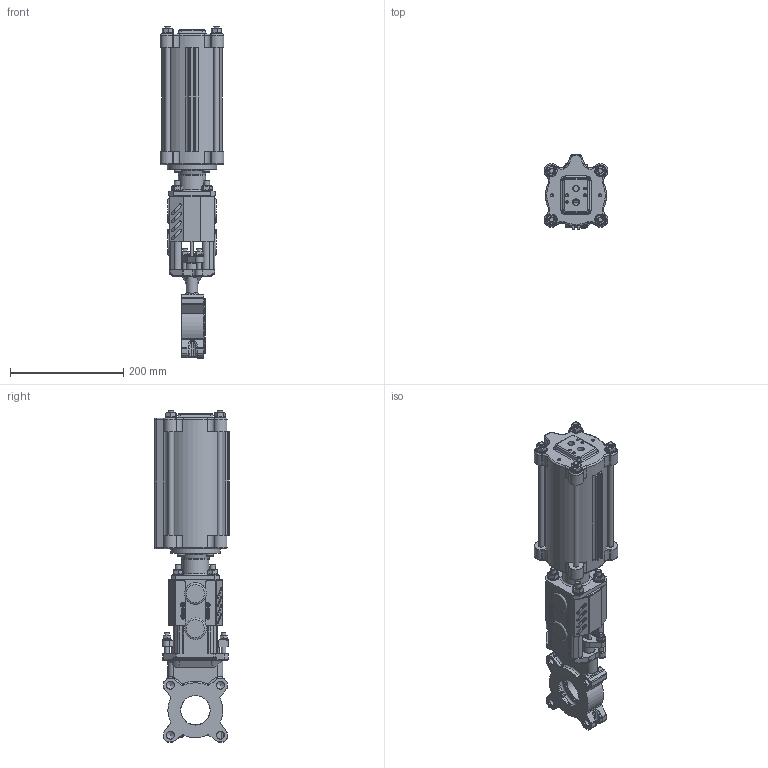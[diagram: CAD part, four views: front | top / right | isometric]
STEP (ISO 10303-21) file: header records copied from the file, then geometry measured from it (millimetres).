
FILE_DESCRIPTION(/* description */ (''),/* implementation_level */ '2;1');
FILE_NAME(/* name */ 'F:\Emir\3D-block special\MV VALVE\PNEUMATIC ACTUATOR\MV-DN50-PN10-FRSC100-115.stp',/* time_stamp */ '2018-03-20T09:37:24+01:00',/* author */ ('emimus'),/* organization */ (''),/* preprocessor_version */ 'ST-DEVELOPER v17',/* originating_system */ 'Autodesk Inventor 2018',/* authorisation */ '');
FILE_SCHEMA (('CONFIG_CONTROL_DESIGN'));
Products named in the file (1): MV-DN50-PN10-FRSC100-115
Bounding box: 112.17 x 132 x 586 mm (x, y, z)
Volume: 1757816.6 mm3; surface area: 613083.5 mm2
Topology: 5 solids, 5 shells, 2067 faces, 5257 edges, 3287 vertices
Faces by surface type: plane 753, cylinder 562, cone 222, bspline 217, torus 215, sphere 98
Full cylindrical faces by diameter (mm): 3 x10, 3.5 x2, 3.6 x2, 4 x4, 4.134 x4, 4.2 x12, 4.5 x4, 4.917 x4, 6 x6, 6.75 x2, 8 x13, 8.4 x2, 9 x2, 10 x20, 10.106 x1, 10.5 x8, 11 x8, 11.445 x2, 12 x2, 13 x4, 13.835 x4, 14 x9, 14.376 x1, 15 x5, 16 x2, 20 x9, 20.15 x2, 22 x1, 24 x5, 26 x1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
Entity records: 74723 total; most frequent: CARTESIAN_POINT 24685, DIRECTION 10689, ORIENTED_EDGE 10410, EDGE_CURVE 5205, AXIS2_PLACEMENT_3D 4392, VERTEX_POINT 3287, CIRCLE 2367, EDGE_LOOP 2304
